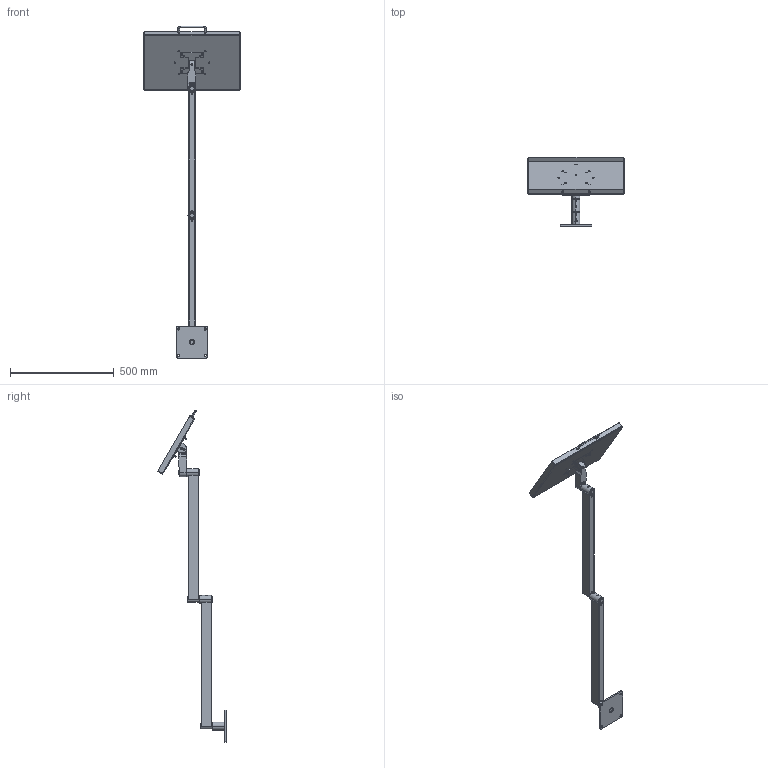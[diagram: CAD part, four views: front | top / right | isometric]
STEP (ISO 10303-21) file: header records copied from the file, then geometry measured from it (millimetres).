
FILE_DESCRIPTION (( 'STEP AP203' ), '1' );
FILE_NAME ('70-0705-00 REV AA, 48in RIGID SYSTEM, TILTING TRAY, TABLE MOUNT - ANGLE.STEP', '2025-07-23T23:04:10', ( '' ), ( '' ), 'SwSTEP 2.0', 'SolidWorks 2025', '' );
FILE_SCHEMA (( 'CONFIG_CONTROL_DESIGN' ));
Length unit declared in the file: inch
Products named in the file (29): 11-0401-00 REV AA, 18x12 TOOL TRAY, BLACK; 002-100-00, BHSCS, 8-32x.375_002-100-00; 11-0450-00 REV AA, FOAM, YELLOW, 18x12; 002-088-00, FHSCS 10-32 x .5L, BO_002-088-00; 71-0122-RX REV AA, PLATE, PIVOT PLATE; 70-1024-00 REV AA, 24in RIGID SECTION; 70-0402-00 REV AA, 18x12 TILTING TOOL TRAY ASSEMBLY; 016-007-00, OILITE PLUS BEARING, 0.876 id x 1.002 od x 0.75 lg; 007-034-00, SHSS, .375-24, .25L_007-034-00; 41-0063-RX REV AA, PIN, TILT, VESA; 71-2113-RX REV AA, HOUSING, BEARING, TALL, 1.5OD_MACHINE; 007-036-00, SHSS, 1''4-28, .25L_007-036-00; 70-0015-00 REV AA, TABLE MOUNT; 010-012-00, RETAINING RING, EXTERNAL, .875in SHAFT; 71-1061-RX REV AA, BODY, VESA, RAW_MACHINE; 006-008-00, NUT, HEX, 10-32 x .125_006-008-00; 70-0705-00 REV AA, 48in RIGID SYSTEM, TILTING TRAY, TABLE MOUNT - ANGLE; 11-0028-RX REV AA, PLASTIC DISC, VESA; 11-0062-BLKX REV AA, BRACKET, VESA, SHEETMETAL, BLACK; 016-012-00, OILITE PLUS BEARING, .876 IDx1.0 OD x 1.0; 70-0048-00 REV AA, CONNECTOR PIN ASSEMBLY, .875OD x 3.9; 002-090-00, FHSCS 10-32 x .625L_002-090-00; 70-0060-00 REV AA, VESA ATTACHMENT; 71-1024-RX REV AA, HOUSING, 24in RIGID; 71-0022-RX REV AA, PIN, RIGID SECTION; 016-008-00, OILITE PLUS BEARING, 0.876 id x 1.002 od x 1.25 lg; 70-0048-RX REV AA, CONNECTOR PIN, 875OD x 3.9; 025-067-00, HANDLE, U SHAPED, 8-32
Assembly tree (53 placements, depth 4):
  70-0705-00 REV AA, 48in RIGID SYSTEM, TILTING TRAY, TABLE MOUNT - ANGLE
    70-0015-00 REV AA, TABLE MOUNT
      71-2113-RX REV AA, HOUSING, BEARING, TALL, 1.5OD_MACHINE
      71-0122-RX REV AA, PLATE, PIVOT PLATE
      016-007-00, OILITE PLUS BEARING, 0.876 id x 1.002 od x 0.75 lg
      016-008-00, OILITE PLUS BEARING, 0.876 id x 1.002 od x 1.25 lg
      007-036-00, SHSS, 1''4-28, .25L_007-036-00
    70-1024-00 REV AA, 24in RIGID SECTION
      71-1024-RX REV AA, HOUSING, 24in RIGID
      71-0022-RX REV AA, PIN, RIGID SECTION
      71-2113-RX REV AA, HOUSING, BEARING, TALL, 1.5OD_MACHINE
      016-007-00, OILITE PLUS BEARING, 0.876 id x 1.002 od x 0.75 lg
      016-008-00, OILITE PLUS BEARING, 0.876 id x 1.002 od x 1.25 lg
      007-036-00, SHSS, 1''4-28, .25L_007-036-00
    70-1024-00 REV AA, 24in RIGID SECTION
      71-1024-RX REV AA, HOUSING, 24in RIGID
      71-0022-RX REV AA, PIN, RIGID SECTION
      71-2113-RX REV AA, HOUSING, BEARING, TALL, 1.5OD_MACHINE
      016-007-00, OILITE PLUS BEARING, 0.876 id x 1.002 od x 0.75 lg
      016-008-00, OILITE PLUS BEARING, 0.876 id x 1.002 od x 1.25 lg
      007-036-00, SHSS, 1''4-28, .25L_007-036-00
      010-012-00, RETAINING RING, EXTERNAL, .875in SHAFT
    70-0048-00 REV AA, CONNECTOR PIN ASSEMBLY, .875OD x 3.9
      70-0048-RX REV AA, CONNECTOR PIN, 875OD x 3.9
      010-012-00, RETAINING RING, EXTERNAL, .875in SHAFT  x2
    70-0402-00 REV AA, 18x12 TILTING TOOL TRAY ASSEMBLY
      70-0060-00 REV AA, VESA ATTACHMENT
        71-1061-RX REV AA, BODY, VESA, RAW_MACHINE
        016-008-00, OILITE PLUS BEARING, 0.876 id x 1.002 od x 1.25 lg
        016-012-00, OILITE PLUS BEARING, .876 IDx1.0 OD x 1.0
        007-034-00, SHSS, .375-24, .25L_007-034-00
        41-0063-RX REV AA, PIN, TILT, VESA
        11-0028-RX REV AA, PLASTIC DISC, VESA  x2
        11-0062-BLKX REV AA, BRACKET, VESA, SHEETMETAL, BLACK
        002-088-00, FHSCS 10-32 x .5L, BO_002-088-00  x4
        007-036-00, SHSS, 1''4-28, .25L_007-036-00
      11-0401-00 REV AA, 18x12 TOOL TRAY, BLACK
      025-067-00, HANDLE, U SHAPED, 8-32
      11-0450-00 REV AA, FOAM, YELLOW, 18x12
      002-100-00, BHSCS, 8-32x.375_002-100-00  x2
      002-090-00, FHSCS 10-32 x .625L_002-090-00  x4
      006-008-00, NUT, HEX, 10-32 x .125_006-008-00  x4
Bounding box: 461.77 x 330.47 x 1596.82 mm (x, y, z)
Volume: 1904605.9 mm3; surface area: 1236998.6 mm2
Topology: 47 solids, 47 shells, 1831 faces, 4493 edges, 2757 vertices
Faces by surface type: cylinder 905, cone 414, plane 347, torus 112, bspline 49, sphere 4
Entity records: 35553 total; most frequent: CARTESIAN_POINT 13877, ORIENTED_EDGE 3780, DIRECTION 3767, EDGE_CURVE 1890, AXIS2_PLACEMENT_3D 1495, VERTEX_POINT 1168, EDGE_LOOP 894, ADVANCED_FACE 778
